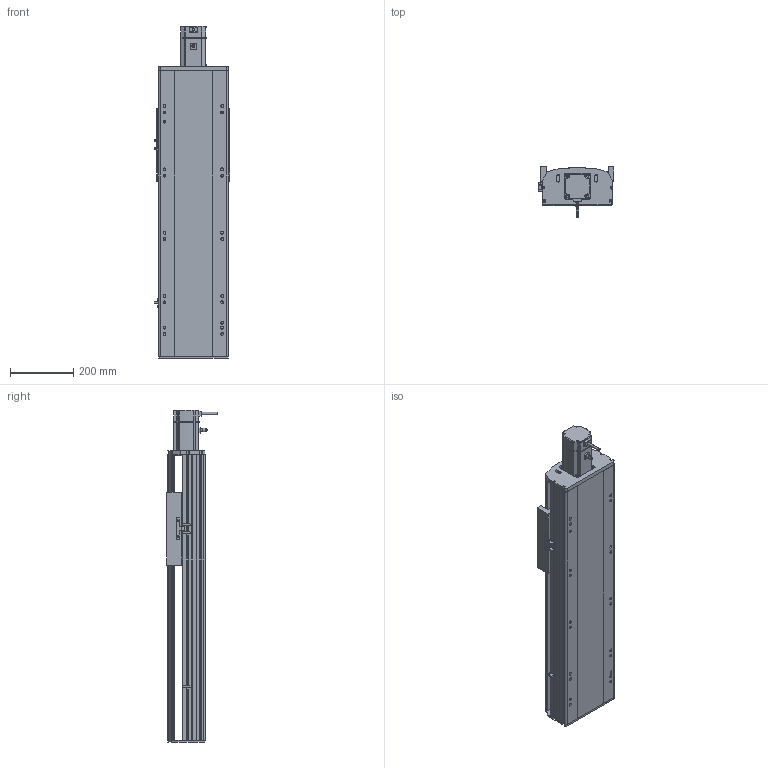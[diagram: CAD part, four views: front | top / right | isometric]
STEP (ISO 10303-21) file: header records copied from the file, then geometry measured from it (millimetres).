
FILE_DESCRIPTION (( 'STEP AP214' ), '1' );
FILE_NAME ('RTH22-XX-500-E-M75-C4.STEP', '2025-10-24T10:43:33', ( 'Microsoft' ), ( 'Microsoft' ), 'SwSTEP 2.0', 'SolidWorks 2018', '' );
FILE_SCHEMA (( 'AUTOMOTIVE_DESIGN' ));
Length unit declared in the file: millimetre
Products named in the file (9): N_RTH22-E-007奻裔^RTH22-XX-XX-E-M75-C4; N_RTH22-GY-013外置感应片^RTH22-XX-XX-E-M75-C4; RTH22-XX-500-E-M75-C4; N_RTH22-GY-001耜裔^RTH22-XX-XX-E-M75-C4; N_OMRON EE-SX672 传感器^RTH22-XX-XX-E-M75-C4; N_RTH22-E-004-SFS25賑釱^RTH22-XX-XX-E-M75-C4; N_750W萇儂^RTH22-XX-XX-E-M75-C4; N_RTH22-E-008萇儂啣^RTH22-XX-XX-E-M75-C4; N_RTH22-E-011菁釱^RTH22-XX-XX-E-M75-C4
Assembly tree (10 placements, depth 2):
  RTH22-XX-500-E-M75-C4
    N_RTH22-E-011菁釱^RTH22-XX-XX-E-M75-C4
    N_RTH22-GY-001耜裔^RTH22-XX-XX-E-M75-C4
    N_RTH22-E-008萇儂啣^RTH22-XX-XX-E-M75-C4
    N_RTH22-E-007奻裔^RTH22-XX-XX-E-M75-C4
    N_RTH22-GY-013外置感应片^RTH22-XX-XX-E-M75-C4
    N_RTH22-E-004-SFS25賑釱^RTH22-XX-XX-E-M75-C4
    N_750W萇儂^RTH22-XX-XX-E-M75-C4
    N_OMRON EE-SX672 传感器^RTH22-XX-XX-E-M75-C4  x3
Bounding box: 238.5 x 160.7 x 1049 mm (x, y, z)
Volume: 13578001.1 mm3; surface area: 1432538.8 mm2
Topology: 10 solids, 10 shells, 1505 faces, 4124 edges, 2669 vertices
Faces by surface type: plane 752, cylinder 424, bspline 279, cone 50
Entity records: 37203 total; most frequent: CARTESIAN_POINT 11737, ORIENTED_EDGE 5240, DIRECTION 4886, EDGE_CURVE 2620, VERTEX_POINT 1705, AXIS2_PLACEMENT_3D 1630, LINE 1626, VECTOR 1626
